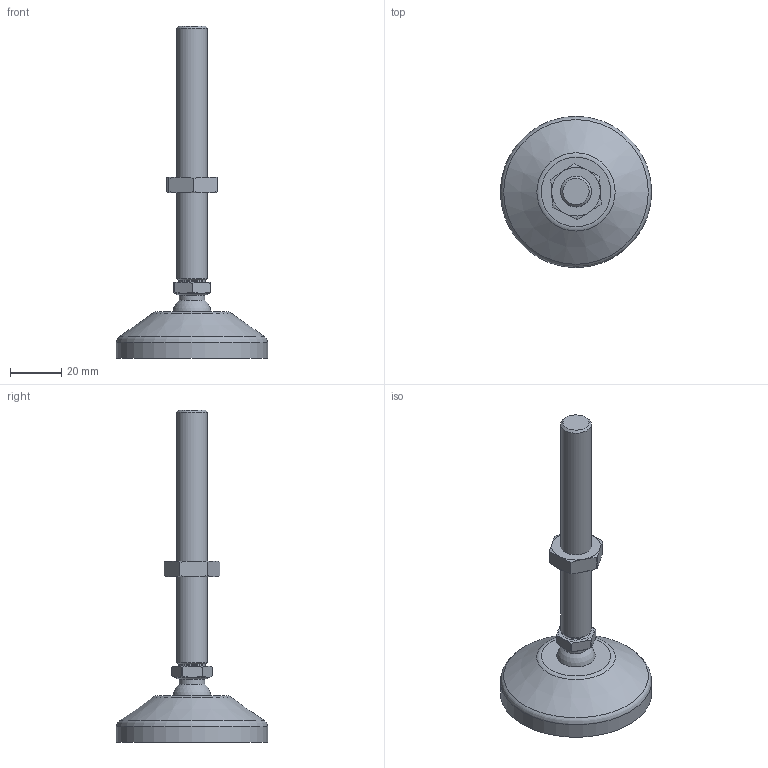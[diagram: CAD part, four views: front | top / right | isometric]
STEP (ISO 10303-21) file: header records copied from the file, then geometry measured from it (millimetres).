
FILE_DESCRIPTION(('STEP AP242'),'1');
FILE_NAME('TAPID60M12100PA.stp','2026-10-12T10:14:41',(' '),(' '),'Spatial InterOp 3D',' ',' ');
FILE_SCHEMA(('AP242_MANAGED_MODEL_BASED_3D_ENGINEERING_MIM_LF {1 0 10303 442 1 1 4}'));
Length unit declared in the file: millimetre
Products named in the file (5): Pied Ø60 M12x100 articulé réglable (+/- 35mm); Ecrou H DIN 439 M12; Tige filetée M12x100 (Ø15); Embase PA Ø60 (Ø15); TAPID60M12100PA
Assembly tree (4 placements, depth 3):
  TAPID60M12100PA
    Pied Ø60 M12x100 articulé réglable (+/- 35mm)
      Ecrou H DIN 439 M12
      Tige filetée M12x100 (Ø15)
      Embase PA Ø60 (Ø15)
Bounding box: 59 x 59 x 129.5 mm (x, y, z)
Volume: 42055.1 mm3; surface area: 14303.7 mm2
Topology: 3 solids, 4 shells, 80 faces, 174 edges, 104 vertices
Faces by surface type: torus 30, plane 22, cylinder 20, cone 6, sphere 2
Full cylindrical faces by diameter (mm): 10 x1, 10.2 x1, 10.25 x1, 12 x1, 15 x2, 51 x1, 59 x1
Entity records: 3397 total; most frequent: CARTESIAN_POINT 909, DIRECTION 346, ORIENTED_EDGE 294, AXIS2_PLACEMENT_3D 161, EDGE_CURVE 147, EDGE_LOOP 106, VERTEX_POINT 99, FACE_OUTER_BOUND 94
